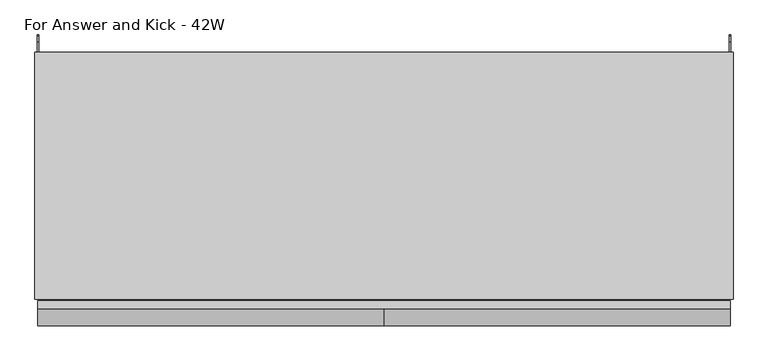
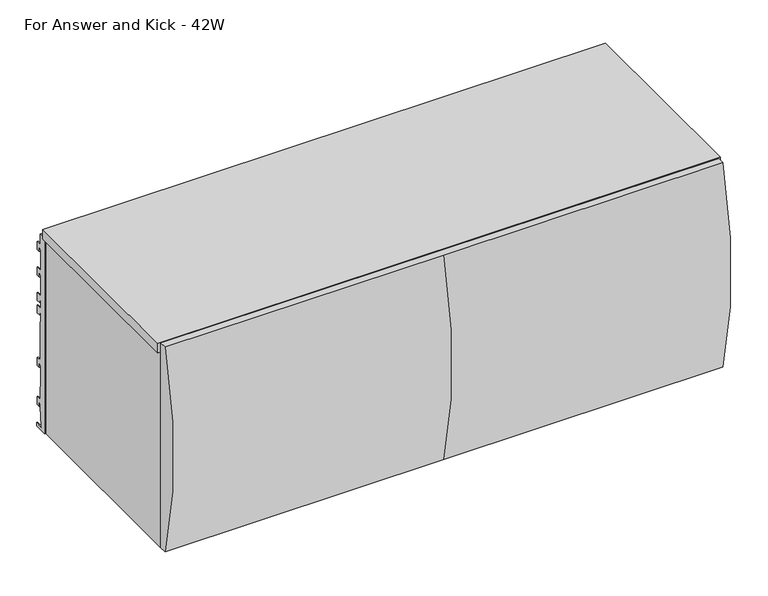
"""IFC4 building model written with IfcOpenShell, lengths in millimetres: furniture geometry, Steelcase - Universal Storage - Over the Case Bin - Radius Front : For Answer and Kick - 42W."""

import ifcopenshell
import ifcopenshell.guid

model = None  # the IFC model being written
_history = None  # IfcOwnerHistory: only IFC2X3 demands one
_inside = {}  # id of a spatial element -> (the spatial element, [elements in it])
_under = {}  # id of a project, library or spatial element -> (it, [spatial elements below it])
_declared = {}  # id of a project -> (the project, [libraries it declares])
_typed = {}  # id of a type object -> (the type object, [elements of that type])
_made_of = {}  # id of a material, layer set ... -> (it, [elements and type objects made of it])


def new_model(schema):
    """Start an empty IFC model of exactly this schema.

    Asked for "IFC4X3", IfcOpenShell would pick the latest addendum, in which some entities
    have other attributes; the version numbers below select the first issue.
    IFC2X3 requires an IfcOwnerHistory on every rooted entity: one is made here for all.
    """
    global model, _history
    if schema == "IFC4X3":
        model = ifcopenshell.file(schema_version=(4, 3, 0, 0))
    else:
        model = ifcopenshell.file(schema=schema)
    _inside.clear()
    _under.clear()
    _declared.clear()
    _typed.clear()
    _made_of.clear()
    _history = None
    if model.schema == "IFC2X3":
        org = make("IfcOrganization", Name="unknown")
        user = make(
            "IfcPersonAndOrganization",
            ThePerson=make("IfcPerson", FamilyName="unknown"),
            TheOrganization=org,
        )
        app = make(
            "IfcApplication",
            ApplicationDeveloper=org,
            Version="unknown",
            ApplicationFullName="unknown",
            ApplicationIdentifier="unknown",
        )
        _history = make(
            "IfcOwnerHistory",
            OwningUser=user,
            OwningApplication=app,
            ChangeAction="ADDED",
            CreationDate=0,
        )
    return model


def make(cls, **values):
    """One entity of the class cls with the attributes given. An attribute that is None is left unset."""
    return model.create_entity(
        cls, **{name: value for name, value in values.items() if value is not None}
    )


def rooted(cls, **values):
    """An entity with a GlobalId (a new one), such as an element, a storey or a relation."""
    return make(cls, GlobalId=ifcopenshell.guid.new(), OwnerHistory=_history, **values)


def si_unit(unit_type, name, prefix=None):
    """IfcSIUnit, for example si_unit("LENGTHUNIT", "METRE", prefix="MILLI")."""
    return make("IfcSIUnit", UnitType=unit_type, Prefix=prefix, Name=name)


def assignment(units):
    """IfcUnitAssignment: the units of a project."""
    return None if units is None else make("IfcUnitAssignment", Units=units)


def point(xyz):
    """IfcCartesianPoint."""
    return None if xyz is None else make("IfcCartesianPoint", Coordinates=xyz)


def direction(xyz):
    """IfcDirection."""
    return None if xyz is None else make("IfcDirection", DirectionRatios=xyz)


def frame(location, z_axis=None, x_axis=None):
    """IfcAxis2Placement3D, a coordinate frame: its origin and axes. An axis left out is left unset."""
    return make(
        "IfcAxis2Placement3D",
        Location=point(location),
        Axis=direction(z_axis),
        RefDirection=direction(x_axis),
    )


def origin():
    """The frame at (0, 0, 0) with its axes left unset."""
    return frame((0.0, 0.0, 0.0))


def place(relative_to, where):
    """IfcLocalPlacement: puts the frame where relative to a parent placement (None: the world)."""
    return make(
        "IfcLocalPlacement", PlacementRelTo=relative_to, RelativePlacement=where
    )


def context(
    kind, dimensions, precision=None, world=None, true_north=None, identifier=None
):
    """IfcGeometricRepresentationContext, for example the 3D "Model" context."""
    return make(
        "IfcGeometricRepresentationContext",
        ContextIdentifier=identifier,
        ContextType=kind,
        CoordinateSpaceDimension=dimensions,
        Precision=precision,
        WorldCoordinateSystem=world,
        TrueNorth=true_north,
    )


def project(units=None, contexts=None):
    """IfcProject with its units and contexts."""
    return rooted(
        "IfcProject",
        Name="project",
        RepresentationContexts=contexts,
        UnitsInContext=assignment(units),
    )


def spatial(cls, under=None, at=None, **own):
    """A site, building, storey or space (cls), placed at a placement, below another one or the project."""
    s = rooted(cls, ObjectPlacement=at, **own)
    if under is not None:
        _under.setdefault(under.id(), (under, []))[1].append(s)
    return s


def polyline(points):
    """IfcPolyline through the points."""
    return make("IfcPolyline", Points=[point(p) for p in points])


def circle_curve(where, radius):
    """IfcCircle in the frame where."""
    return make("IfcCircle", Position=where, Radius=radius)


def outline(outer, holes=None, kind="AREA"):
    """IfcArbitraryClosedProfileDef: a profile drawn as a closed curve; with holes, ...WithVoids."""
    if holes is None:
        return make("IfcArbitraryClosedProfileDef", ProfileType=kind, OuterCurve=outer)
    return make(
        "IfcArbitraryProfileDefWithVoids",
        ProfileType=kind,
        OuterCurve=outer,
        InnerCurves=holes,
    )


def extrude(swept, where, along, depth):
    """IfcExtrudedAreaSolid: the profile swept, set in the frame where, extruded along a direction by depth."""
    return make(
        "IfcExtrudedAreaSolid",
        SweptArea=swept,
        Position=where,
        ExtrudedDirection=direction(along),
        Depth=depth,
    )


def shape(context_of_items, identifier, shape_type, items):
    """IfcShapeRepresentation: the items that make up one representation, for example the "Body"."""
    return make(
        "IfcShapeRepresentation",
        ContextOfItems=context_of_items,
        RepresentationIdentifier=identifier,
        RepresentationType=shape_type,
        Items=items,
    )


def source(mapping_origin, context_of_items, identifier, shape_type, items):
    """IfcRepresentationMap: a shape defined once, which mapped items show again and again."""
    return make(
        "IfcRepresentationMap",
        MappingOrigin=mapping_origin,
        MappedRepresentation=shape(context_of_items, identifier, shape_type, items),
    )


def transform(
    local_origin,
    x_axis=None,
    y_axis=None,
    z_axis=None,
    scale=None,
    scale2=None,
    scale3=None,
    uniform=True,
):
    """IfcCartesianTransformationOperator3D, or its non-uniform kind. x_axis, y_axis, z_axis: its Axis1, 2, 3."""
    if uniform:
        return make(
            "IfcCartesianTransformationOperator3D",
            Axis1=direction(x_axis),
            Axis2=direction(y_axis),
            LocalOrigin=point(local_origin),
            Scale=scale,
            Axis3=direction(z_axis),
        )
    return make(
        "IfcCartesianTransformationOperator3DnonUniform",
        Axis1=direction(x_axis),
        Axis2=direction(y_axis),
        LocalOrigin=point(local_origin),
        Scale=scale,
        Axis3=direction(z_axis),
        Scale2=scale2,
        Scale3=scale3,
    )


def mapped(mapping_source, mapping_target):
    """IfcMappedItem: shows the shape of a source again, moved by a transform."""
    return make(
        "IfcMappedItem", MappingSource=mapping_source, MappingTarget=mapping_target
    )


def made_of(thing, what):
    """Note that an element or type object is made of a material, layer set ...; save() writes the relation."""
    if what is not None:
        _made_of.setdefault(what.id(), (what, []))[1].append(thing)
    return thing


def element(
    cls,
    number,
    at=None,
    inside=None,
    cuts=None,
    type_object=None,
    material=None,
    context=None,
    identifier="Body",
    shape_type=None,
    held_by="IfcProductDefinitionShape",
    body=None,
    shapes=None,
    **own,
):
    """One element of the class cls, such as IfcWall. Its Tag is "e" and its number.

    at: its placement. inside: the storey or other place that contains it. cuts: it is an
    opening in that element (IfcRelVoidsElement). A single representation is given by context,
    identifier, shape_type and body (its items); several are given by shapes. held_by: the class
    of the entity that holds the representations. save() writes the other relations.
    """
    e = rooted(cls, Tag="e%d" % number, ObjectPlacement=at, **own)
    if body is not None:
        shapes = [shape(context, identifier, shape_type, body)]
    if shapes is not None:
        e.Representation = make(held_by, Representations=shapes)
    if inside is not None:
        _inside.setdefault(inside.id(), (inside, []))[1].append(e)
    if cuts is not None:
        rooted(
            "IfcRelVoidsElement", RelatingBuildingElement=cuts, RelatedOpeningElement=e
        )
    if type_object is not None:
        _typed.setdefault(type_object.id(), (type_object, []))[1].append(e)
    return made_of(e, material)


def aggregate(whole, parts):
    """IfcRelAggregates: a whole, such as a stair, and the parts it consists of."""
    return rooted("IfcRelAggregates", RelatingObject=whole, RelatedObjects=parts)


def save(model, path):
    """Write the relations noted so far, then the file.

    IfcRelAggregates (storeys below a building ...), IfcRelContainedInSpatialStructure (elements
    in a storey), IfcRelDefinesByType, IfcRelAssociatesMaterial and IfcRelDeclares: one each for
    every whole, place, type object, material and project.
    """
    for whole, parts in _under.values():
        aggregate(whole, parts)
    for where, things in _inside.values():
        rooted(
            "IfcRelContainedInSpatialStructure",
            RelatedElements=things,
            RelatingStructure=where,
        )
    for kind, things in _typed.values():
        rooted("IfcRelDefinesByType", RelatedObjects=things, RelatingType=kind)
    for what, things in _made_of.values():
        rooted("IfcRelAssociatesMaterial", RelatedObjects=things, RelatingMaterial=what)
    for by, libraries in _declared.values():
        rooted("IfcRelDeclares", RelatingContext=by, RelatedDefinitions=libraries)
    model.write(path)


def plane_surface(at):
    """IfcPlane: the flat surface through the origin of the frame at, square to its z axis."""
    return make("IfcPlane", Position=at)


def cylinder_surface(at, radius):
    """IfcCylindricalSurface: all points at the distance radius from the z axis of the frame at."""
    return make("IfcCylindricalSurface", Position=at, Radius=radius)


def advanced_brep(points, edges, surfaces, faces):
    """IfcAdvancedBrep: a solid bounded by faces that lie on surfaces and meet in shared edges.

    An edge is (start, end): straight between two places in points (the first is 0);
    or (start, end, curve); or (start, end, curve, False) where it runs against its curve.
    A face is (place in surfaces, loops), or (place, loops, False) where it looks against
    its surface's normal. A loop lists edges by number (the first is 1), with a minus sign
    where the edge is run from its end to its start. The first loop is the outer one.
    """
    corners = [point(p) for p in points]
    vertices = [make("IfcVertexPoint", VertexGeometry=c) for c in corners]
    made = []
    for start, end, *more in edges:
        made.append(
            make(
                "IfcEdgeCurve",
                EdgeStart=vertices[start],
                EdgeEnd=vertices[end],
                EdgeGeometry=more[0] if more else make("IfcPolyline", Points=[corners[start], corners[end]]),
                SameSense=more[1] if len(more) > 1 else True,
            )
        )
    hull = []
    for where, loops, *sense in faces:
        bounds = []
        for j, loop in enumerate(loops):
            ring = [make("IfcOrientedEdge", EdgeElement=made[abs(k) - 1], Orientation=k > 0) for k in loop]
            bounds.append(
                make(
                    "IfcFaceOuterBound" if j == 0 else "IfcFaceBound",
                    Bound=make("IfcEdgeLoop", EdgeList=ring),
                    Orientation=True,
                )
            )
        hull.append(make("IfcAdvancedFace", Bounds=bounds, FaceSurface=surfaces[where], SameSense=sense[0] if sense else True))
    return make("IfcAdvancedBrep", Outer=make("IfcClosedShell", CfsFaces=hull))


def for_answer_and_kick_42w_794338a9(model_context):
    return source(origin(), model_context, "Body", "SolidModel", [
        extrude(outline(polyline([(0.0, 1657.096), (15.428165, 1657.096), (15.428165, 1635.9725192), (24.6737648, 1635.9725192), (24.6737648, 1620.2499324), (17.7141651, 1620.2499324), (17.7141651, 1627.4034202), (15.428165, 1627.4034202), (13.3707653, 1623.8398995), (13.3707653, 1584.7332049), (24.4959651, 1584.7332049), (24.4959651, 1569.0106181), (17.7141651, 1569.0106181), (17.7141651, 1576.1734076), (15.428165, 1576.1734076), (13.3707653, 1572.6099624), (13.3707653, 1533.4938907), (24.6737648, 1533.4938907), (24.6737648, 1517.7713038), (17.5768, 1517.7713038), (17.5768, 1524.9340934), (15.4248855, 1524.9340934), (13.3349998, 1521.3219111), (13.3349998, 1508.4166423), (24.6737648, 1508.4166423), (24.6737648, 1492.6940555), (17.5768, 1492.6940555), (17.5768, 1499.856845), (15.4205129, 1499.856845), (13.3933344, 1496.3530466), (13.3933344, 1483.6530466), (15.428165, 1479.2893385), (15.428165, 1403.8551467), (24.6737648, 1403.8551467), (24.6737648, 1388.1325599), (17.7141651, 1388.1325599), (17.7141651, 1395.2982562), (15.428165, 1395.2982562), (13.3306079, 1391.6651808), (13.3306079, 1353.5651808), (15.428165, 1349.9321054), (15.428165, 1325.1000701), (24.6737648, 1325.1000701), (24.6737648, 1309.3774833), (17.7141651, 1309.3774833), (17.7141651, 1316.5328605), (15.428165, 1316.5328605), (15.428165, 1303.5355433), (13.2046809, 1299.684356), (13.2046809, 1282.9679719), (11.2879653, 1282.9679719), (11.2879653, 1271.9303504), (26.4009645, 1271.9303504), (26.4009645, 1265.428), (0.0, 1265.428), (0.0, 1657.096)])), frame((1061.2882, 0.0, 0.0), z_axis=(1.0, 0.0, 0.0), x_axis=(0.0, 1.0, 0.0)), (0.0, 0.0, 1.0), 1.905),
        extrude(outline(polyline([(0.0, 1657.096), (15.428165, 1657.096), (15.428165, 1635.9725192), (24.6737648, 1635.9725192), (24.6737648, 1620.2499324), (17.7141651, 1620.2499324), (17.7141651, 1627.4034202), (15.428165, 1627.4034202), (13.3707653, 1623.8398995), (13.3707653, 1584.7332049), (24.4959651, 1584.7332049), (24.4959651, 1569.0106181), (17.7141651, 1569.0106181), (17.7141651, 1576.1734076), (15.428165, 1576.1734076), (13.3707653, 1572.6099624), (13.3707653, 1533.4938907), (24.6737648, 1533.4938907), (24.6737648, 1517.7713038), (17.5768, 1517.7713038), (17.5768, 1524.9340934), (15.4248855, 1524.9340934), (13.3349998, 1521.3219111), (13.3349998, 1508.4166423), (24.6737648, 1508.4166423), (24.6737648, 1492.6940555), (17.5768, 1492.6940555), (17.5768, 1499.856845), (15.4205129, 1499.856845), (13.3933344, 1496.3530466), (13.3933344, 1483.6530466), (15.428165, 1479.2893385), (15.428165, 1403.8551467), (24.6737648, 1403.8551467), (24.6737648, 1388.1325599), (17.7141651, 1388.1325599), (17.7141651, 1395.2982562), (15.428165, 1395.2982562), (13.3306079, 1391.6651808), (13.3306079, 1353.5651808), (15.428165, 1349.9321054), (15.428165, 1325.1000701), (24.6737648, 1325.1000701), (24.6737648, 1309.3774833), (17.7141651, 1309.3774833), (17.7141651, 1316.5328605), (15.428165, 1316.5328605), (15.428165, 1303.5355433), (13.2046809, 1299.684356), (13.2046809, 1282.9679719), (11.2879653, 1282.9679719), (11.2879653, 1271.9303504), (26.4009645, 1271.9303504), (26.4009645, 1265.428), (0.0, 1265.428), (0.0, 1657.096)])), frame((3.6068, 0.0, 0.0), z_axis=(1.0, 0.0, 0.0), x_axis=(0.0, 1.0, 0.0)), (0.0, 0.0, 1.0), 1.905),
        advanced_brep(
        [(1062.3703, -393.0769518, 1677.2612846), (1062.3703, -393.0769518, 1266.8226746), (1062.3703, -379.476, 1266.8226746), (1062.3703, -379.476, 1677.2612846), (533.4, -393.0769518, 1677.2612846), (533.4, -393.0769518, 1266.8226746), (4.4448587, -393.0769518, 1266.8226746), (4.4448587, -379.476, 1266.8226746), (4.4448587, -379.476, 1677.2612846), (4.4448587, -393.0769518, 1677.2612846)],
        [
            (0, 1, circle_curve(frame((1062.3703, 352.6331971, 1472.0419796), z_axis=(1.0, 0.0, 0.0), x_axis=(0.0, 1.0, 0.0)), 773.4329895)),
            (1, 2),
            (2, 3),
            (3, 0),
            (0, 4),
            (4, 5, circle_curve(frame((533.4, 352.6331971, 1472.0419796), z_axis=(1.0, 0.0, 0.0), x_axis=(0.0, 1.0, 0.0)), 773.4329895)),
            (5, 1),
            (5, 6),
            (6, 7),
            (7, 2),
            (7, 8),
            (8, 3),
            (8, 9),
            (9, 4),
            (6, 9, circle_curve(frame((4.4448587, 352.6331971, 1472.0419796), z_axis=(-1.0, 0.0, 0.0), x_axis=(0.0, 1.0, 0.0)), 773.4329895)),
        ],
        [
            plane_surface(frame((1062.3703, 1126.0661866, 1472.0419796), z_axis=(1.0, 0.0, 0.0), x_axis=(0.0, 0.0, 1.0))),
            cylinder_surface(frame((533.4, 352.6331971, 1472.0419796), z_axis=(1.0, 0.0, 0.0), x_axis=(0.0, 1.0, 0.0)), 773.4329895),
            plane_surface(frame((1062.3703, -393.0769518, 1266.8226746), z_axis=(0.0, 0.0, -1.0), x_axis=(-1.0, 0.0, 0.0))),
            plane_surface(frame((1062.3703, -379.476, 1266.8226746), z_axis=(0.0, 1.0, 0.0), x_axis=(-1.0, 0.0, 0.0))),
            plane_surface(frame((1062.3703, -379.476, 1677.2612846), z_axis=(0.0, 0.0, 1.0), x_axis=(-1.0, 0.0, 0.0))),
            plane_surface(frame((4.4448587, 1126.0661866, 1472.0419796), z_axis=(-1.0, 0.0, 0.0), x_axis=(0.0, 0.0, -1.0))),
            cylinder_surface(frame((4.4448587, 352.6331971, 1472.0419796), z_axis=(1.0, 0.0, 0.0), x_axis=(0.0, 1.0, 0.0)), 773.4329895),
        ],
        [
            (0, [[1, 2, 3, 4]]),
            (1, [[-1, 5, 6, 7]]),
            (2, [[-2, -7, 8, 9, 10]]),
            (3, [[-3, -10, 11, 12]]),
            (4, [[-4, -12, 13, 14, -5]]),
            (5, [[-13, -11, -9, 15]]),
            (6, [[-15, -8, -6, -14]]),
        ],
    ),
        extrude(outline(polyline([(1066.8, -377.213238), (0.0, -377.213238), (0.0, 0.0), (1066.8, 0.0), (1066.8, -377.213238)])), frame((0.0, 0.0, 1657.35), z_axis=(0.0, 0.0, 1.0), x_axis=(1.0, 0.0, 0.0)), (0.0, 0.0, 1.0), 19.05),
        extrude(outline(polyline([(15.875, -377.213238), (5.5118, -377.213238), (5.5118, 0.0), (15.875, 0.0), (15.875, -377.213238)])), frame((0.0, 0.0, 1265.428), z_axis=(0.0, 0.0, 1.0), x_axis=(1.0, 0.0, 0.0)), (0.0, 0.0, 1.0), 391.6679457),
        extrude(outline(polyline([(1065.6568665, -377.213238), (1050.925, -377.213238), (1050.925, 0.0), (1065.6568665, 0.0), (1065.6568665, -377.213238)])), frame((0.0, 0.0, 1265.428), z_axis=(0.0, 0.0, 1.0), x_axis=(1.0, 0.0, 0.0)), (0.0, 0.0, 1.0), 391.6679457),
        extrude(outline(polyline([(-35.4584098, 1372.819257), (-27.0763996, 1372.819257), (-27.0763996, 1360.1191601), (-33.4264117, 1360.1191601), (-33.4264117, 1323.1622589), (-27.0763996, 1323.1622589), (-27.0763996, 1265.428), (-35.4584098, 1265.428), (-35.4584098, 1293.054213), (-46.1263996, 1293.054213), (-46.1263996, 1268.1875622), (-59.9694137, 1268.1875622), (-59.9694137, 1294.8575912), (-332.8542818, 1294.8575912), (-332.8542818, 1268.1875622), (-377.3042823, 1268.1875622), (-377.3042823, 1310.7072052), (-35.4584098, 1310.7072052), (-35.4584098, 1372.819257)])), frame((15.875, 0.0, 0.0), z_axis=(1.0, 0.0, 0.0), x_axis=(0.0, 1.0, 0.0)), (0.0, 0.0, 1.0), 1035.05),
    ])


if __name__ == "__main__":
    model = new_model("IFC4")
    model_context = context("Model", 3, world=origin())
    ifc_project = project(units=[si_unit("LENGTHUNIT", "METRE", prefix="MILLI")], contexts=[model_context])
    site = spatial("IfcSite", under=ifc_project)
    building = spatial("IfcBuilding", under=site)
    placement = place(None, origin())
    for_answer_and_kick_42w_shape = for_answer_and_kick_42w_794338a9(model_context)
    element("IfcFurniture", 1, ObjectType="Steelcase - Universal Storage - Over the Case Bin - Radius Front : For Answer and Kick - 42W", at=placement, inside=building, context=model_context, shape_type="MappedRepresentation", body=[
        mapped(for_answer_and_kick_42w_shape, transform((0.0, 0.0, 0.0), x_axis=(1.0, 0.0, 0.0), y_axis=(0.0, 1.0, 0.0), z_axis=(0.0, 0.0, 1.0))),
    ])
    save(model, "model.ifc")
